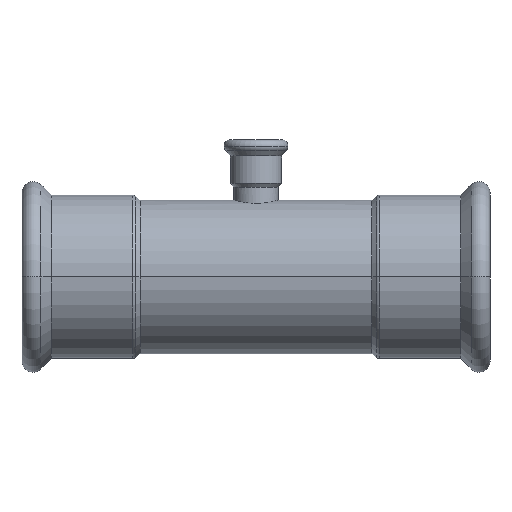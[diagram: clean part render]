
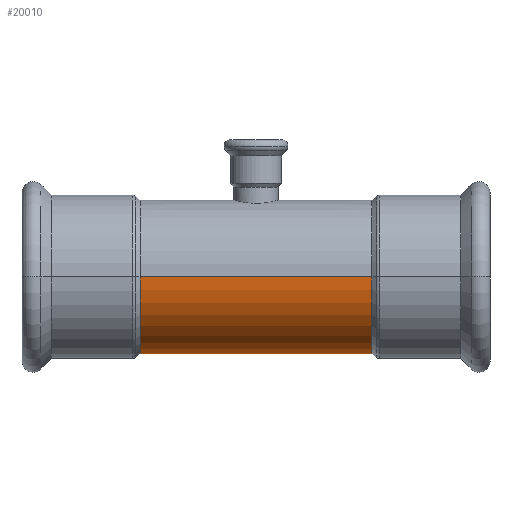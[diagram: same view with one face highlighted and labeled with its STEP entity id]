
A CAD part, front view. The second image highlights one B-rep face of the part: STEP entity #20010.
In plain terms, the highlighted cylindrical face has radius 38.05 mm (diameter 76.1 mm), a partial arc.
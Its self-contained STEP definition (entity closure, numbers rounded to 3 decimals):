
#13410=CARTESIAN_POINT('',(-261.791,-3.065,0.));
#13420=DIRECTION('',(1.,0.,0.));
#13430=DIRECTION('',(0.,0.,-1.));
#13440=AXIS2_PLACEMENT_3D('',#13410,#13420,#13430);
#13450=CYLINDRICAL_SURFACE('',#13440,38.05);
#19650=CARTESIAN_POINT('',(-261.791,-3.065,38.05));
#19660=DIRECTION('',(1.,0.,0.));
#19670=VECTOR('',#19660,1.);
#19680=LINE('',#19650,#19670);
#19690=CARTESIAN_POINT('',(-376.791,-3.065,38.05));
#19700=VERTEX_POINT('',#19690);
#19710=CARTESIAN_POINT('',(-261.791,-3.065,38.05));
#19720=VERTEX_POINT('',#19710);
#19730=EDGE_CURVE('',#19700,#19720,#19680,.T.);
#19740=ORIENTED_EDGE('',*,*,#19730,.F.);
#19750=CARTESIAN_POINT('',(-261.791,-3.065,0.));
#19760=DIRECTION('',(1.,0.,0.));
#19770=DIRECTION('',(0.,0.,-1.));
#19780=AXIS2_PLACEMENT_3D('',#19750,#19760,#19770);
#19790=CIRCLE('',#19780,38.05);
#19800=CARTESIAN_POINT('',(-261.791,-3.065,-38.05));
#19810=VERTEX_POINT('',#19800);
#19820=EDGE_CURVE('',#19720,#19810,#19790,.T.);
#19830=ORIENTED_EDGE('',*,*,#19820,.F.);
#19840=CARTESIAN_POINT('',(-261.791,-3.065,-38.05));
#19850=DIRECTION('',(1.,0.,0.));
#19860=VECTOR('',#19850,1.);
#19870=LINE('',#19840,#19860);
#19880=CARTESIAN_POINT('',(-376.791,-3.065,-38.05));
#19890=VERTEX_POINT('',#19880);
#19900=EDGE_CURVE('',#19890,#19810,#19870,.T.);
#19910=ORIENTED_EDGE('',*,*,#19900,.T.);
#19920=CARTESIAN_POINT('',(-376.791,-3.065,0.));
#19930=DIRECTION('',(1.,0.,0.));
#19940=DIRECTION('',(0.,0.,-1.));
#19950=AXIS2_PLACEMENT_3D('',#19920,#19930,#19940);
#19960=CIRCLE('',#19950,38.05);
#19970=EDGE_CURVE('',#19700,#19890,#19960,.T.);
#19980=ORIENTED_EDGE('',*,*,#19970,.T.);
#19990=EDGE_LOOP('',(#19980,#19910,#19830,#19740));
#20000=FACE_OUTER_BOUND('',#19990,.T.);
#20010=ADVANCED_FACE('',(#20000),#13450,.T.);
